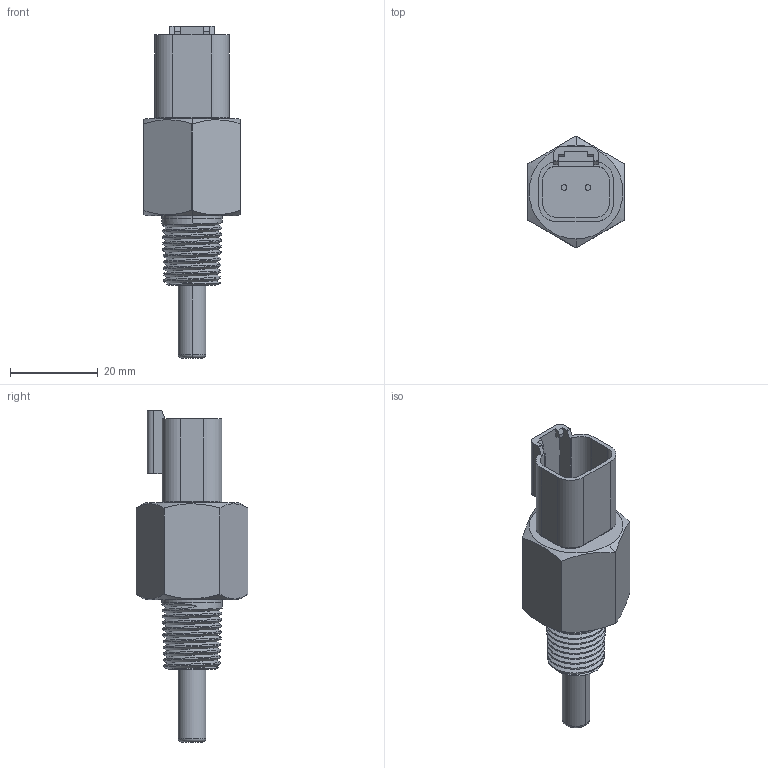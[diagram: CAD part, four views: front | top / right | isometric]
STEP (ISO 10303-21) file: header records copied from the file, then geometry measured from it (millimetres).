
FILE_DESCRIPTION (( 'STEP AP214' ), '1' );
FILE_NAME ('49.008.0 THERMISTOR PROBE, 0.25 IN NPT.STEP', '2024-10-31T18:17:43', ( '' ), ( '' ), 'SwSTEP 2.0', 'SolidWorks 2024', '' );
FILE_SCHEMA (( 'AUTOMOTIVE_DESIGN' ));
Length unit declared in the file: inch
Products named in the file (1): 49.008.0  THERMISTOR PROBE, 0.25 IN NPT
Bounding box: 22 x 25.4 x 75.48 mm (x, y, z)
Volume: 12933 mm3; surface area: 6378.7 mm2
Topology: 2 solids, 2 shells, 111 faces, 304 edges, 197 vertices
Faces by surface type: plane 42, cylinder 31, cone 28, torus 8, bspline 2
Entity records: 8449 total; most frequent: CARTESIAN_POINT 4940, ORIENTED_EDGE 608, DIRECTION 545, EDGE_CURVE 304, VERTEX_POINT 197, AXIS2_PLACEMENT_3D 196, LINE 153, VECTOR 153
